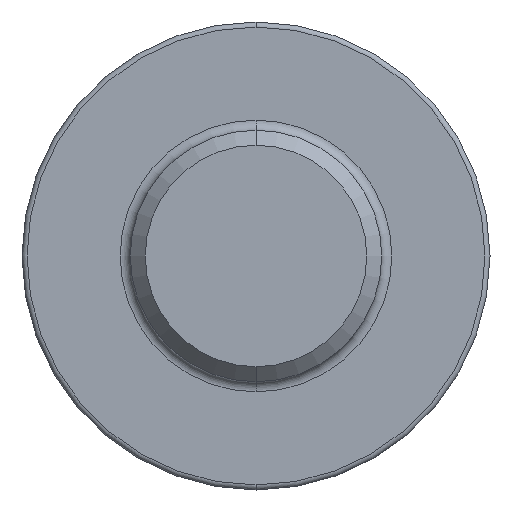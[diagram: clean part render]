
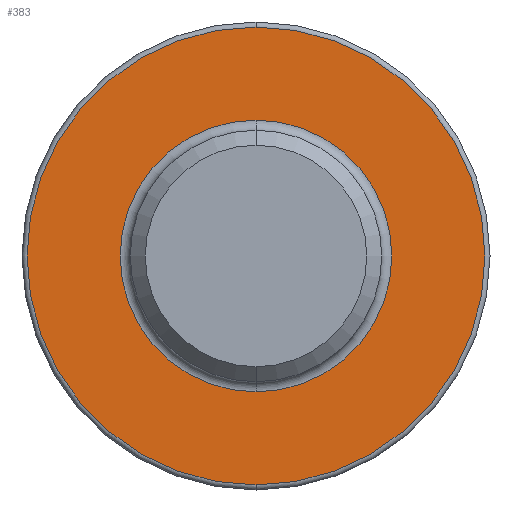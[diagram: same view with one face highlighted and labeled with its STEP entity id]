
A CAD part, front view. The second image highlights one B-rep face of the part: STEP entity #383.
In plain terms, the highlighted planar face has unit normal (0, -1, 0).
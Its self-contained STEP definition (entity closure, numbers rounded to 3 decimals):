
#1 = DIRECTION ( 'NONE',  ( 0., 0., 1. ) ) ;
#31 = ORIENTED_EDGE ( 'NONE', *, *, #611, .T. ) ;
#57 = CARTESIAN_POINT ( 'NONE',  ( 0., -2.7, 0. ) ) ;
#102 = CARTESIAN_POINT ( 'NONE',  ( 0., -2.7, 0. ) ) ;
#114 = FACE_BOUND ( 'NONE', #125, .T. ) ;
#119 = DIRECTION ( 'NONE',  ( 0., 0., 1. ) ) ;
#125 = EDGE_LOOP ( 'NONE', ( #491, #31 ) ) ;
#145 = VERTEX_POINT ( 'NONE', #824 ) ;
#164 = ORIENTED_EDGE ( 'NONE', *, *, #250, .T. ) ;
#182 = CARTESIAN_POINT ( 'NONE',  ( 2.5, -2.7, 0. ) ) ;
#189 = CIRCLE ( 'NONE', #679, 4.55 ) ;
#206 = DIRECTION ( 'NONE',  ( 0., -1., 0. ) ) ;
#231 = AXIS2_PLACEMENT_3D ( 'NONE', #102, #571, #628 ) ;
#233 = EDGE_LOOP ( 'NONE', ( #164, #291 ) ) ;
#250 = EDGE_CURVE ( 'NONE', #569, #145, #836, .T. ) ;
#270 = DIRECTION ( 'NONE',  ( 0., 0., 1. ) ) ;
#285 = CIRCLE ( 'NONE', #588, 2.7 ) ;
#291 = ORIENTED_EDGE ( 'NONE', *, *, #479, .T. ) ;
#324 = AXIS2_PLACEMENT_3D ( 'NONE', #182, #446, #119 ) ;
#375 = CIRCLE ( 'NONE', #833, 2.7 ) ;
#383 = ADVANCED_FACE ( 'NONE', ( #114, #866 ), #573, .F. ) ;
#403 = CARTESIAN_POINT ( 'NONE',  ( 0., -2.7, 4.55 ) ) ;
#425 = CARTESIAN_POINT ( 'NONE',  ( 0., -2.7, 0. ) ) ;
#443 = EDGE_CURVE ( 'NONE', #829, #509, #375, .T. ) ;
#446 = DIRECTION ( 'NONE',  ( 0., 1., 0. ) ) ;
#470 = DIRECTION ( 'NONE',  ( 0., 1., 0. ) ) ;
#479 = EDGE_CURVE ( 'NONE', #145, #569, #189, .T. ) ;
#491 = ORIENTED_EDGE ( 'NONE', *, *, #443, .T. ) ;
#509 = VERTEX_POINT ( 'NONE', #743 ) ;
#569 = VERTEX_POINT ( 'NONE', #403 ) ;
#571 = DIRECTION ( 'NONE',  ( 0., -1., 0. ) ) ;
#573 = PLANE ( 'NONE',  #324 ) ;
#588 = AXIS2_PLACEMENT_3D ( 'NONE', #425, #691, #620 ) ;
#611 = EDGE_CURVE ( 'NONE', #509, #829, #285, .T. ) ;
#620 = DIRECTION ( 'NONE',  ( 0., 0., 1. ) ) ;
#628 = DIRECTION ( 'NONE',  ( 0., 0., 1. ) ) ;
#679 = AXIS2_PLACEMENT_3D ( 'NONE', #685, #206, #270 ) ;
#685 = CARTESIAN_POINT ( 'NONE',  ( 0., -2.7, 0. ) ) ;
#691 = DIRECTION ( 'NONE',  ( 0., 1., 0. ) ) ;
#730 = CARTESIAN_POINT ( 'NONE',  ( 0., -2.7, 2.7 ) ) ;
#743 = CARTESIAN_POINT ( 'NONE',  ( 0., -2.7, -2.7 ) ) ;
#824 = CARTESIAN_POINT ( 'NONE',  ( 0., -2.7, -4.55 ) ) ;
#829 = VERTEX_POINT ( 'NONE', #730 ) ;
#833 = AXIS2_PLACEMENT_3D ( 'NONE', #57, #470, #1 ) ;
#836 = CIRCLE ( 'NONE', #231, 4.55 ) ;
#866 = FACE_OUTER_BOUND ( 'NONE', #233, .T. ) ;
